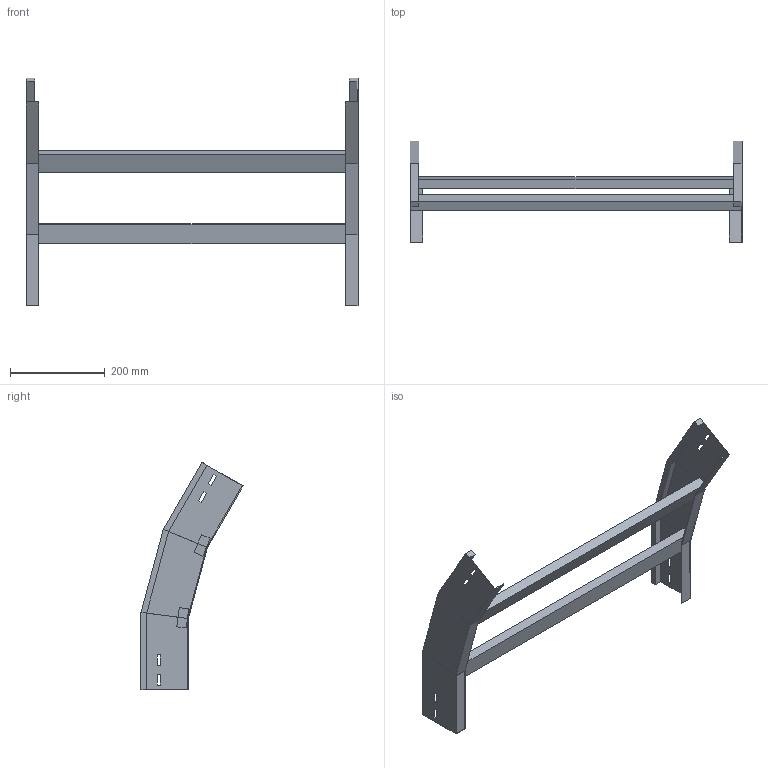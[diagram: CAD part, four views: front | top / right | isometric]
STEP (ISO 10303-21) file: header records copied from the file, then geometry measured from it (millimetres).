
FILE_DESCRIPTION (( 'STEP AP214' ), '1' );
FILE_NAME ('A2_35B3D700.step', '2025-02-21T14:46:27', ( '' ), ( '' ), 'SwSTEP 2.0', 'SolidWorks 2023', '' );
FILE_SCHEMA (( 'AUTOMOTIVE_DESIGN' ));
Length unit declared in the file: millimetre
Products named in the file (3): LONGH.DISCESA_30°_H100_R300; A2_35B3D700; TRAVERSINO_700
Assembly tree (5 placements, depth 2):
  A2_35B3D700
    LONGH.DISCESA_30°_H100_R300  x2
    TRAVERSINO_700  x3
Bounding box: 700 x 215.12 x 479.62 mm (x, y, z)
Volume: 2120629.4 mm3; surface area: 531963.6 mm2
Topology: 5 solids, 5 shells, 102 faces, 244 edges, 152 vertices
Faces by surface type: plane 102
Entity records: 1480 total; most frequent: CARTESIAN_POINT 244, ORIENTED_EDGE 232, DIRECTION 228, EDGE_CURVE 116, LINE 116, VECTOR 116, VERTEX_POINT 72, AXIS2_PLACEMENT_3D 56
